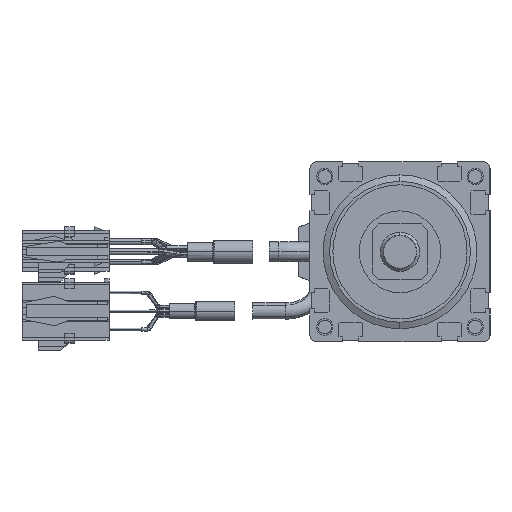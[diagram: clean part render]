
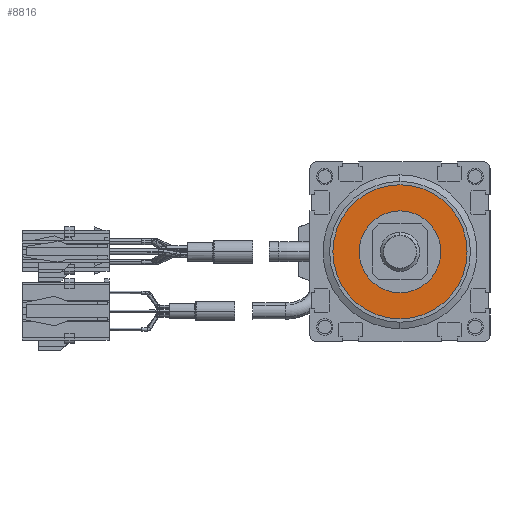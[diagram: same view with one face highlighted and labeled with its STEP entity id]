
A CAD part, left-side view. The second image highlights one B-rep face of the part: STEP entity #8816.
In plain terms, the highlighted planar face has unit normal (-1, 0, 0).
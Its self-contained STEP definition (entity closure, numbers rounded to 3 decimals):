
#2322=CARTESIAN_POINT('',(-441.,0.,0.));
#2323=DIRECTION('',(1.,0.,0.));
#2324=DIRECTION('',(0.,1.,0.));
#2325=AXIS2_PLACEMENT_3D('',#2322,#2323,#2324);
#2327=CARTESIAN_POINT('',(-441.,0.,0.));
#2328=DIRECTION('',(1.,0.,0.));
#2329=DIRECTION('',(0.,-1.,0.));
#2330=AXIS2_PLACEMENT_3D('',#2327,#2328,#2329);
#2332=CARTESIAN_POINT('',(-441.,0.,0.));
#2333=DIRECTION('',(-1.,0.,0.));
#2334=DIRECTION('',(0.,0.,1.));
#2335=AXIS2_PLACEMENT_3D('',#2332,#2333,#2334);
#2337=CARTESIAN_POINT('',(-441.,0.,0.));
#2338=DIRECTION('',(-1.,0.,0.));
#2339=DIRECTION('',(0.,0.,-1.));
#2340=AXIS2_PLACEMENT_3D('',#2337,#2338,#2339);
#4281=CARTESIAN_POINT('',(-441.,20.5,0.));
#4282=VERTEX_POINT('',#4281);
#4283=CARTESIAN_POINT('',(-441.,-20.5,0.));
#4284=VERTEX_POINT('',#4283);
#5447=CARTESIAN_POINT('',(-441.,0.,12.5));
#5448=CARTESIAN_POINT('',(-441.,0.,-12.5));
#5449=VERTEX_POINT('',#5447);
#5450=VERTEX_POINT('',#5448);
#8801=CARTESIAN_POINT('',(-441.,0.,0.));
#8802=DIRECTION('',(1.,0.,0.));
#8803=DIRECTION('',(0.,1.,0.));
#8804=AXIS2_PLACEMENT_3D('',#8801,#8802,#8803);
#8805=PLANE('',#8804);
#8806=ORIENTED_EDGE('',*,*,#8781,.T.);
#8807=ORIENTED_EDGE('',*,*,#8795,.T.);
#8808=EDGE_LOOP('',(#8806,#8807));
#8809=FACE_OUTER_BOUND('',#8808,.F.);
#8811=ORIENTED_EDGE('',*,*,#8810,.T.);
#8813=ORIENTED_EDGE('',*,*,#8812,.T.);
#8814=EDGE_LOOP('',(#8811,#8813));
#8815=FACE_BOUND('',#8814,.F.);
#8816=ADVANCED_FACE('',(#8809,#8815),#8805,.F.);
#2326=CIRCLE('',#2325,20.5);
#2331=CIRCLE('',#2330,20.5);
#2336=CIRCLE('',#2335,12.5);
#2341=CIRCLE('',#2340,12.5);
#8781=EDGE_CURVE('',#4282,#4284,#2326,.T.);
#8795=EDGE_CURVE('',#4284,#4282,#2331,.T.);
#8810=EDGE_CURVE('',#5449,#5450,#2336,.T.);
#8812=EDGE_CURVE('',#5450,#5449,#2341,.T.);
